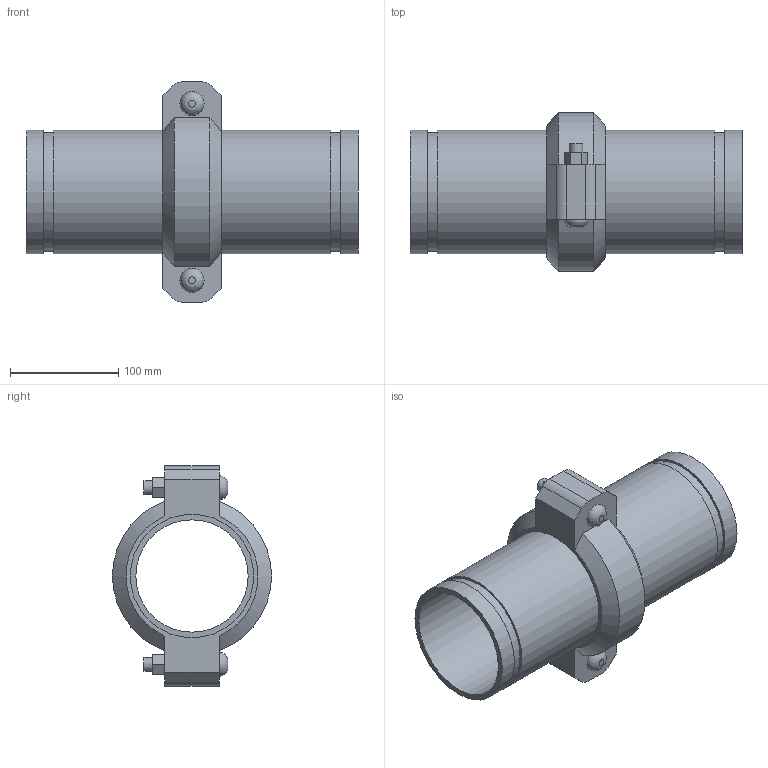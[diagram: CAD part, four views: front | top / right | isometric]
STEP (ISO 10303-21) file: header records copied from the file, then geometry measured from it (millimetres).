
FILE_DESCRIPTION(/* description */ ('VIC SS EXPANSION JOINT 1 COUPLING NEUTRAL STYLE 155P (OGS) (POTABLE WATER) ','CAx-IF Rec.Pracs.---Representation and Presentation of Product Manufacturing Information (PMI)---4.0---2014-10-13'),/* implementation_level */ '2;1');
FILE_NAME(/* name */ 'C:\Users\kkamble\AppData\Roaming\Autodesk\ApplicationPlugins\Victaulic.Temp\A585\Victaulic_SS_Expansion Joint_Neutral_1 Coupling_Style 155P (OGS)-Potable Water_1 Coup_Neut_4 (100).stp',/* time_stamp */ '2021-07-16T16:25:55+06:00',/* author */ ('kkamble'),/* organization */ ('Victaulic'),/* preprocessor_version */ 'ST-DEVELOPER v17.2',/* originating_system */ 'Autodesk Inventor 2019',/* authorisation */ '');
FILE_SCHEMA (('AP242_MANAGED_MODEL_BASED_3D_ENGINEERING_MIM_LF { 1 0 10303 442 1 1 4 }'));
Length unit declared in the file: inch
Products named in the file (3): 155P-04.0; Nipple-04.0; 075-04.0
Assembly tree (3 placements, depth 2):
  155P-04.0
    Nipple-04.0  x2
    075-04.0
Bounding box: 307.34 x 147.32 x 203.96 mm (x, y, z)
Volume: 993946.1 mm3; surface area: 299509 mm2
Topology: 3 solids, 5 shells, 81 faces, 193 edges, 138 vertices
Faces by surface type: plane 48, cylinder 27, cone 4, bspline 2
Full cylindrical faces by diameter (mm): 12.7 x4, 14.605 x2, 103.988 x2, 107.95 x1, 110.084 x4, 114.3 x8
Entity records: 2292 total; most frequent: CARTESIAN_POINT 420, DIRECTION 369, ORIENTED_EDGE 326, EDGE_CURVE 163, AXIS2_PLACEMENT_3D 141, VERTEX_POINT 114, EDGE_LOOP 89, LINE 87
